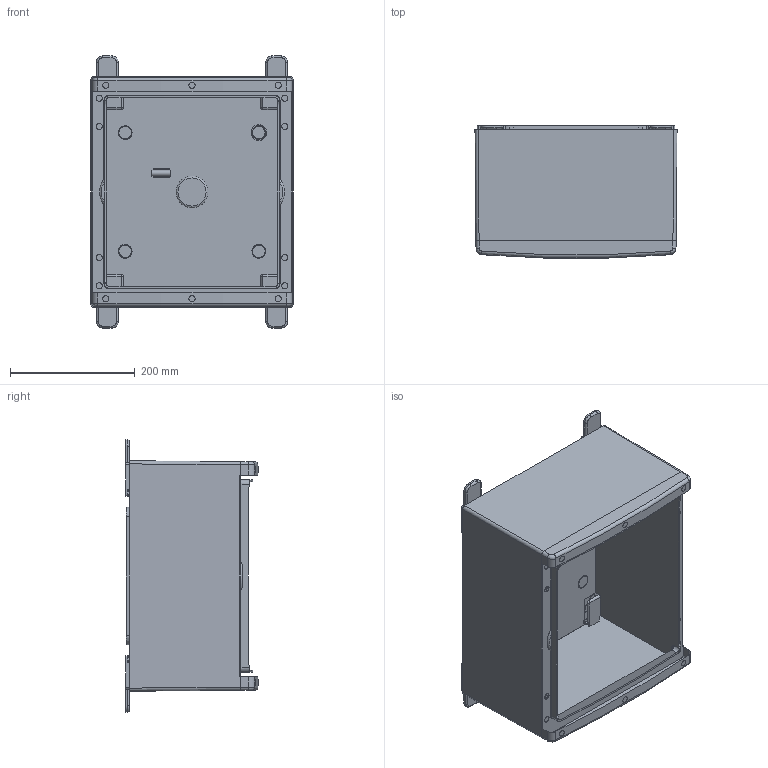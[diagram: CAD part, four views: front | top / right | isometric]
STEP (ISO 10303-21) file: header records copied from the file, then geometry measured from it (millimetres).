
FILE_DESCRIPTION(/* description */ (''),/* implementation_level */ '2;1');
FILE_NAME(/* name */ '4005043.stp',/* time_stamp */ '2016-09-26T10:36:35+02:00',/* author */ (''),/* organization */ (''),/* preprocessor_version */ 'ST-DEVELOPER v16',/* originating_system */ 'SIEMENS PLM Software NX 11.0',/* authorisation */ '');
FILE_SCHEMA (('AUTOMOTIVE_DESIGN { 1 0 10303 214 3 1 1 1 }'));
Length unit declared in the file: millimetre
Products named in the file (1): 4005043_LINKEDEXT_jt
Bounding box: 323.5 x 212.2 x 435.5 mm (x, y, z)
Surface area: 801589.4 mm2 (no closed solid volume)
Topology: 0 solids, 94 shells, 308 faces, 1235 edges, 1000 vertices
Faces by surface type: plane 147, cylinder 103, bspline 22, torus 15, sphere 12, cone 9
Full cylindrical faces by diameter (mm): 10 x1
Entity records: 18582 total; most frequent: CARTESIAN_POINT 5875, DIRECTION 2026, ORIENTED_EDGE 1634, EDGE_CURVE 1219, VERTEX_POINT 999, LINE 718, VECTOR 718, AXIS2_PLACEMENT_3D 654
